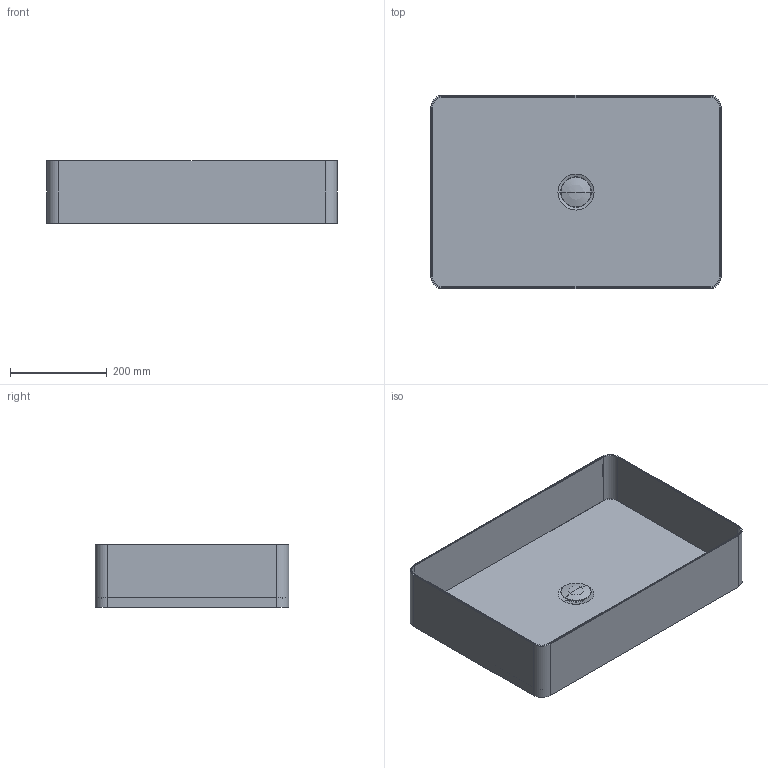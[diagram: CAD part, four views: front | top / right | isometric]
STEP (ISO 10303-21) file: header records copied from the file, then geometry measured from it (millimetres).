
FILE_DESCRIPTION((''),'2;1');
FILE_NAME('4933021_SW0001','2024-10-17T15:18:07',('carloff'),(''),'CREO PARAMETRIC BY PTC INC, 2022014','CREO PARAMETRIC BY PTC INC, 2022014','');
FILE_SCHEMA(('CONFIG_CONTROL_DESIGN'));
Length unit declared in the file: millimetre
Products named in the file (1): 4933021_SW0001
Bounding box: 600 x 400 x 130 mm (x, y, z)
Volume: 1312535.1 mm3; surface area: 1431437.8 mm2
Topology: 4 solids, 4 shells, 429 faces, 1149 edges, 757 vertices
Faces by surface type: plane 168, extrusion 102, cylinder 73, cone 46, torus 34, sphere 4, bspline 2
Entity records: 15295 total; most frequent: CARTESIAN_POINT 4821, ORIENTED_EDGE 2292, DIRECTION 1940, EDGE_CURVE 1146, VERTEX_POINT 757, AXIS2_PLACEMENT_3D 691, VECTOR 558, EDGE_LOOP 467
